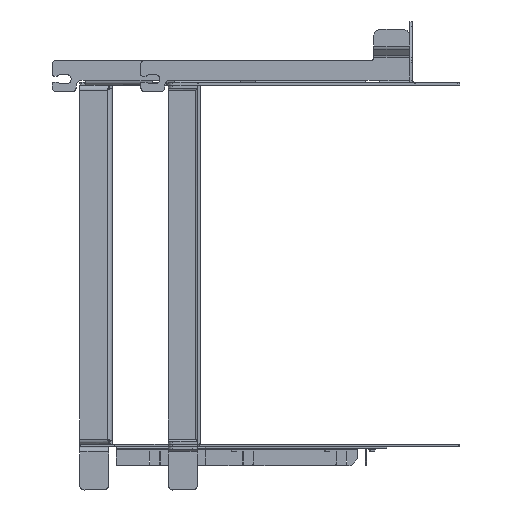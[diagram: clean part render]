
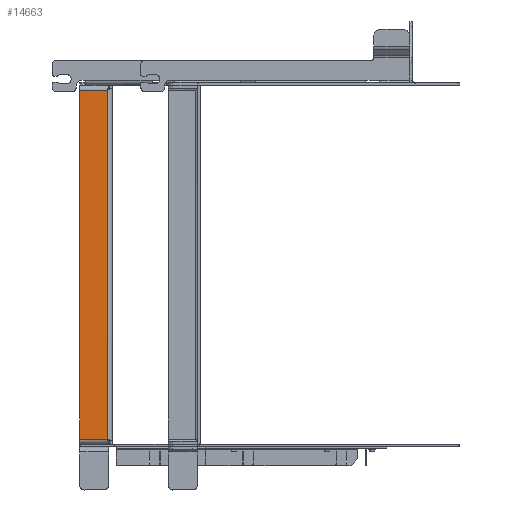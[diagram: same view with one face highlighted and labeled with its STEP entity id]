
A CAD part, left-side view. The second image highlights one B-rep face of the part: STEP entity #14663.
In plain terms, the highlighted planar face has unit normal (-1, 0, 0).
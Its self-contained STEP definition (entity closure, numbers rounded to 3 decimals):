
#1140=FACE_OUTER_BOUND('',#1976,.T.);
#1976=EDGE_LOOP('',(#11461,#11462,#11463,#11464,#11465,#11466));
#3012=LINE('',#23374,#4316);
#3013=LINE('',#23377,#4317);
#3014=LINE('',#23379,#4318);
#3015=LINE('',#23381,#4319);
#3016=LINE('',#23383,#4320);
#3017=LINE('',#23384,#4321);
#4316=VECTOR('',#18631,10.);
#4317=VECTOR('',#18634,10.);
#4318=VECTOR('',#18635,10.);
#4319=VECTOR('',#18636,10.);
#4320=VECTOR('',#18637,10.);
#4321=VECTOR('',#18638,10.);
#6379=VERTEX_POINT('',#23367);
#6382=VERTEX_POINT('',#23372);
#6383=VERTEX_POINT('',#23376);
#6384=VERTEX_POINT('',#23378);
#6385=VERTEX_POINT('',#23380);
#6386=VERTEX_POINT('',#23382);
#8162=EDGE_CURVE('',#6382,#6379,#3012,.T.);
#8163=EDGE_CURVE('',#6382,#6383,#3013,.T.);
#8164=EDGE_CURVE('',#6384,#6383,#3014,.T.);
#8165=EDGE_CURVE('',#6384,#6385,#3015,.T.);
#8166=EDGE_CURVE('',#6386,#6385,#3016,.T.);
#8167=EDGE_CURVE('',#6386,#6379,#3017,.T.);
#11461=ORIENTED_EDGE('',*,*,#8162,.F.);
#11462=ORIENTED_EDGE('',*,*,#8163,.T.);
#11463=ORIENTED_EDGE('',*,*,#8164,.F.);
#11464=ORIENTED_EDGE('',*,*,#8165,.T.);
#11465=ORIENTED_EDGE('',*,*,#8166,.F.);
#11466=ORIENTED_EDGE('',*,*,#8167,.T.);
#13873=PLANE('',#15869);
#14663=ADVANCED_FACE('',(#1140),#13873,.F.);
#15869=AXIS2_PLACEMENT_3D('',#23375,#18632,#18633);
#18631=DIRECTION('',(0.,-0.707,-0.707));
#18632=DIRECTION('center_axis',(1.,0.,0.));
#18633=DIRECTION('ref_axis',(0.,0.,
-1.));
#18634=DIRECTION('',(0.,1.,0.));
#18635=DIRECTION('',(0.,0.,1.));
#18636=DIRECTION('',(0.,-1.,0.));
#18637=DIRECTION('',(0.,0.707,-0.707));
#18638=DIRECTION('',(0.,0.,1.));
#23367=CARTESIAN_POINT('',(856.,491.499,-7.141));
#23372=CARTESIAN_POINT('',(856.,491.64,-7.));
#23374=CARTESIAN_POINT('',(856.,434.639,-64.001));
#23375=CARTESIAN_POINT('Origin',(856.,506.848,-250.071));
#23376=CARTESIAN_POINT('',(856.,529.499,-7.));
#23377=CARTESIAN_POINT('',(856.,518.174,-7.));
#23378=CARTESIAN_POINT('',(856.,529.499,-493.142));
#23379=CARTESIAN_POINT('',(856.,529.499,-500.142));
#23380=CARTESIAN_POINT('',(856.,491.64,-493.142));
#23381=CARTESIAN_POINT('',(856.,518.174,-493.142));
#23382=CARTESIAN_POINT('',(856.,491.499,-493.001));
#23383=CARTESIAN_POINT('',(856.,434.639,-436.141));
#23384=CARTESIAN_POINT('',(856.,491.499,-250.071));
